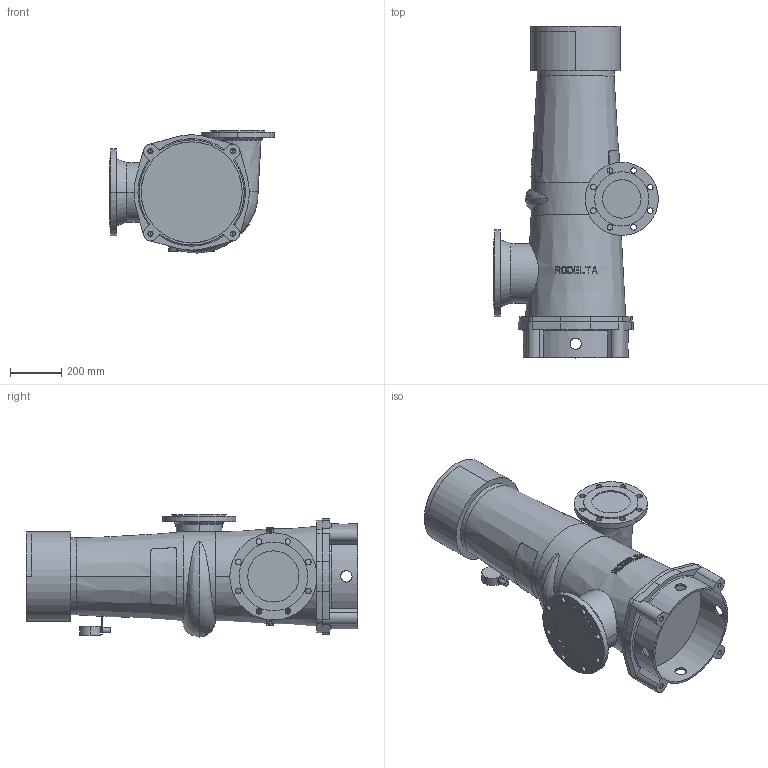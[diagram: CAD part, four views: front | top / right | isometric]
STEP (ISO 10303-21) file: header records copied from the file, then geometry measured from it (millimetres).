
FILE_DESCRIPTION((''),'2;1');
FILE_NAME('7310_ASM','2024-07-23T',('Lyritlocal'),(''),'PRO/ENGINEER BY PARAMETRIC TECHNOLOGY CORPORATION, 2016360','PRO/ENGINEER BY PARAMETRIC TECHNOLOGY CORPORATION, 2016360','');
FILE_SCHEMA(('CONFIG_CONTROL_DESIGN'));
Length unit declared in the file: millimetre
Products named in the file (3): 7310_VOET; 7310; 7310_ASM
Assembly tree (2 placements, depth 2):
  7310_ASM
    7310_VOET
    7310
Bounding box: 642.5 x 1295 x 476.65 mm (x, y, z)
Volume: 130921154 mm3; surface area: 2758235.8 mm2
Topology: 2 solids, 6 shells, 520 faces, 1400 edges, 927 vertices
Faces by surface type: plane 343, cylinder 129, cone 38, bspline 6, torus 4
Entity records: 18158 total; most frequent: CARTESIAN_POINT 5526, ORIENTED_EDGE 2768, DIRECTION 2357, EDGE_CURVE 1392, VERTEX_POINT 927, AXIS2_PLACEMENT_3D 912, EDGE_LOOP 611, VECTOR 533
